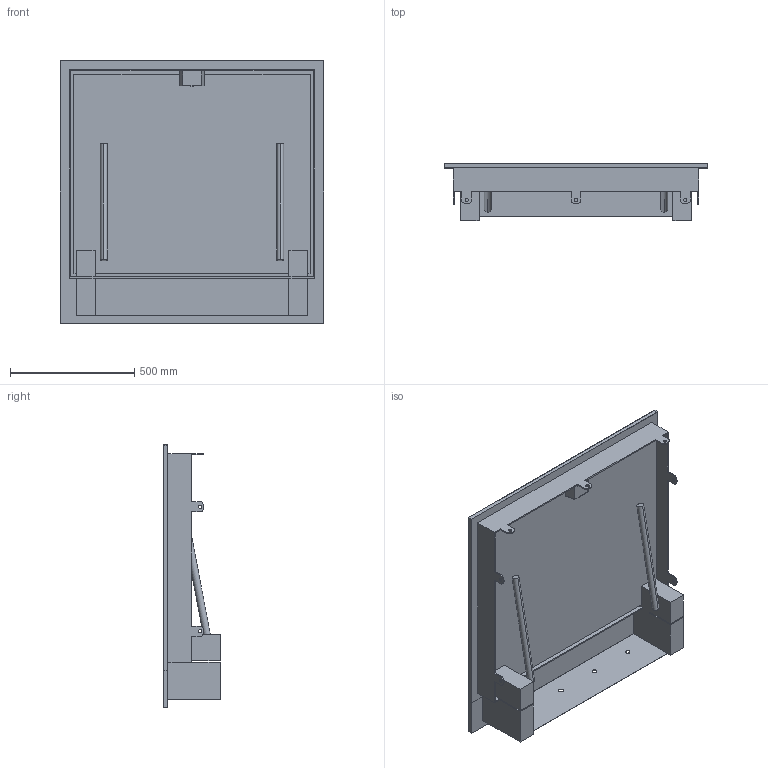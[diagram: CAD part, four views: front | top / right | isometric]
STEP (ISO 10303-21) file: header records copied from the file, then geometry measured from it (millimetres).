
FILE_DESCRIPTION((''),'2;1');
FILE_NAME('51497977','2020-06-17T09:55:21',('slc'),('HUBER SE'),'CREO PARAMETRIC BY PTC INC, 2019224','CREO PARAMETRIC BY PTC INC, 2019224','');
FILE_SCHEMA(('AUTOMOTIVE_DESIGN { 1 0 10303 214 1 1 1 1 }'));
Length unit declared in the file: millimetre
Products named in the file (1): 51497977
Bounding box: 1060 x 228 x 1056 mm (x, y, z)
Volume: 63769254.8 mm3; surface area: 4164652.6 mm2
Topology: 3 solids, 3 shells, 136 faces, 378 edges, 248 vertices
Faces by surface type: plane 97, cylinder 39
Entity records: 4987 total; most frequent: CARTESIAN_POINT 764, ORIENTED_EDGE 756, DIRECTION 732, EDGE_CURVE 378, VECTOR 296, LINE 296, VERTEX_POINT 248, AXIS2_PLACEMENT_3D 218
